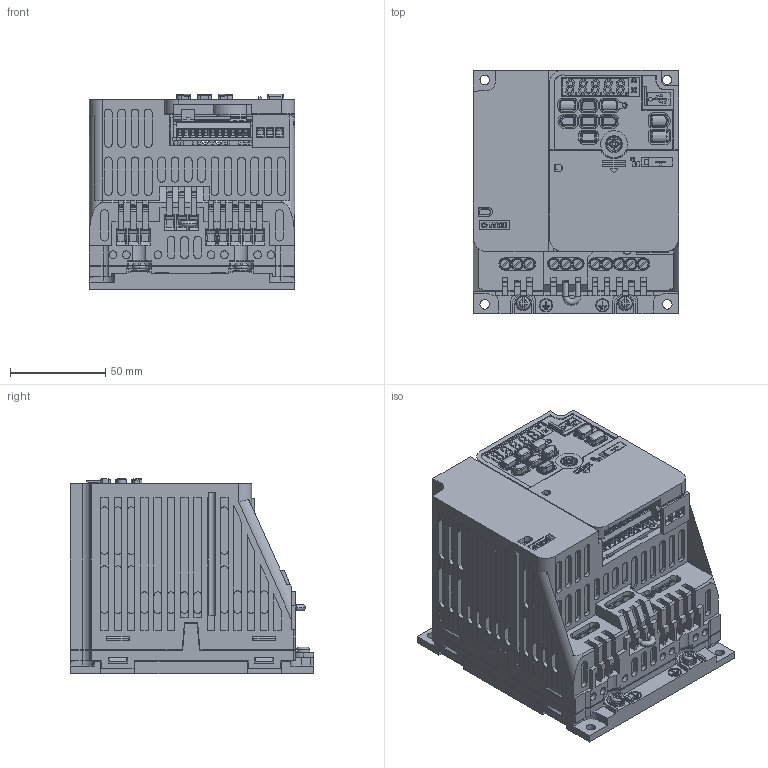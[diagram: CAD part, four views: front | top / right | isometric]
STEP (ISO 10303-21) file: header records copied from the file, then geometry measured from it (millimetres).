
FILE_DESCRIPTION((''),'2;1');
FILE_NAME('CIPR-GA50X4009AJXX_ASM','2020-01-20T',('vsetu'),('YASKAWA ELECTRIC CORCORATION'),'PRO/ENGINEER BY PARAMETRIC TECHNOLOGY CORPORATION, 2015110','PRO/ENGINEER BY PARAMETRIC TECHNOLOGY CORPORATION, 2015110','');
FILE_SCHEMA(('AUTOMOTIVE_DESIGN { 1 0 10303 214 1 1 1 1 }'));
Products named in the file (10): CIPR-GA50X4009AJXX_BODY_1; CIPR-GA50_ALL_TB; CIPR-GA50_KEYPAD; CIPR-GA50_USB_COVER; CIPR-GA50_COMMON_1; CIPR-GA50_COMMON_2; CIPR-GA50_COMMON_4; CIPR-GA50_FP; CIPR-GA50_SCREW_GND_M4X8; CIPR-GA50X4009AJXX_ASM
Assembly tree (10 placements, depth 2):
  CIPR-GA50X4009AJXX_ASM
    CIPR-GA50X4009AJXX_BODY_1
    CIPR-GA50_ALL_TB
    CIPR-GA50_KEYPAD
    CIPR-GA50_USB_COVER
    CIPR-GA50_COMMON_1
    CIPR-GA50_COMMON_2
    CIPR-GA50_COMMON_4
    CIPR-GA50_FP
    CIPR-GA50_SCREW_GND_M4X8  x2
Bounding box: 108 x 128 x 102.75 mm (x, y, z)
Volume: 969837.3 mm3; surface area: 202530.2 mm2
Topology: 12 solids, 12 shells, 6336 faces, 16877 edges, 11074 vertices
Faces by surface type: plane 5050, cylinder 1165, torus 48, bspline 34, cone 31, sphere 8
Entity records: 243260 total; most frequent: CARTESIAN_POINT 38059, ORIENTED_EDGE 33546, DIRECTION 31444, EDGE_CURVE 16773, VECTOR 13872, LINE 13872, VERTEX_POINT 11012, AXIS2_PLACEMENT_3D 8786
